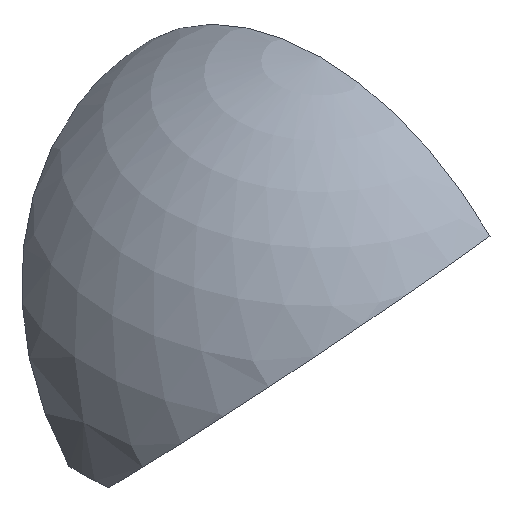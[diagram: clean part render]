
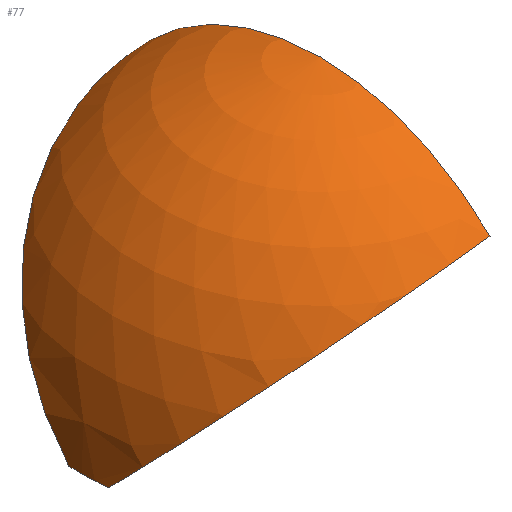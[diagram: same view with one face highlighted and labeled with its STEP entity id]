
A CAD part, isometric view. The second image highlights one B-rep face of the part: STEP entity #77.
In plain terms, the highlighted spherical face has radius 0.5 mm.
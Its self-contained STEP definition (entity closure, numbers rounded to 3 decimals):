
#1=CARTESIAN_POINT('',(44.984,57.524,23.458));
#2=CARTESIAN_POINT('',(44.984,57.17,23.105));
#3=CARTESIAN_POINT('',(45.483,57.524,23.434));
#4=CARTESIAN_POINT('',(45.481,57.524,23.515));
#5=CARTESIAN_POINT('',(44.984,57.17,23.812));
#10=VERTEX_POINT('',#2);
#11=VERTEX_POINT('',#3);
#12=VERTEX_POINT('',#4);
#13=VERTEX_POINT('',#5);
#20=DIRECTION('',(0.,-1.,0.));
#21=DIRECTION('',(-1.,0.,0.));
#22=AXIS2_PLACEMENT_3D('',#1,#20,#21);
#30=DIRECTION('',(0.034,-0.707,0.707));
#31=DIRECTION('',(0.,0.707,0.707));
#32=AXIS2_PLACEMENT_3D('',#1,#30,#31);
#33=DIRECTION('',(0.,-1.,0.));
#34=DIRECTION('',(1.,0.,0.));
#35=AXIS2_PLACEMENT_3D('',#1,#33,#34);
#36=DIRECTION('',(-0.08,0.705,0.705));
#37=DIRECTION('',(0.,0.707,-0.707));
#38=AXIS2_PLACEMENT_3D('',#1,#36,#37);
#39=DIRECTION('',(1.,0.,0.));
#40=DIRECTION('',(0.,0.,-1.));
#41=AXIS2_PLACEMENT_3D('',#1,#39,#40);
#50=CIRCLE('',#32,0.5);
#51=CIRCLE('',#35,0.5);
#52=CIRCLE('',#38,0.5);
#53=CIRCLE('',#41,0.5);
#60=EDGE_CURVE('',#10,#11,#50,.T.);
#61=EDGE_CURVE('',#11,#12,#51,.T.);
#62=EDGE_CURVE('',#13,#12,#52,.T.);
#63=EDGE_CURVE('',#13,#10,#53,.T.);
#70=ORIENTED_EDGE('',*,*,#60,.T.);
#71=ORIENTED_EDGE('',*,*,#61,.T.);
#72=ORIENTED_EDGE('',*,*,#62,.F.);
#73=ORIENTED_EDGE('',*,*,#63,.T.);
#74=EDGE_LOOP('',(#70,#71,#72,#73));
#75=FACE_OUTER_BOUND('',#74,.T.);
#76=SPHERICAL_SURFACE('',#22,0.5);
#77=ADVANCED_FACE('',(#75),#76,.T.);
